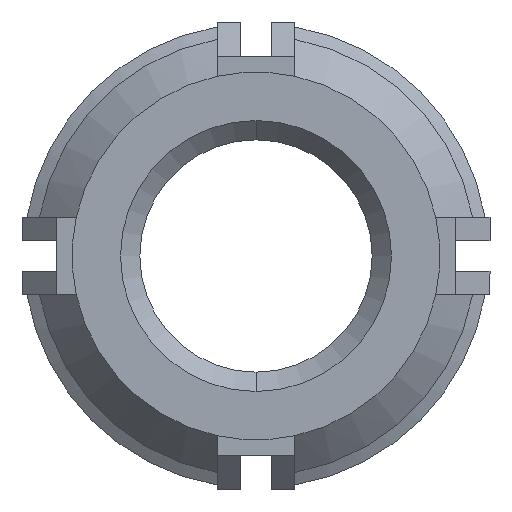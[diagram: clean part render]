
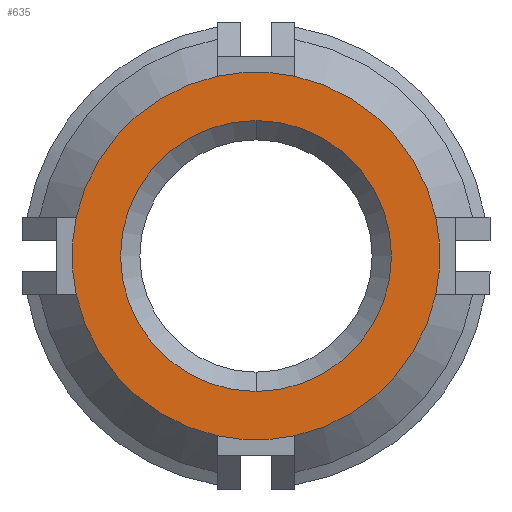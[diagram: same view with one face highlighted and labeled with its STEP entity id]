
A CAD part, front view. The second image highlights one B-rep face of the part: STEP entity #635.
In plain terms, the highlighted planar face has unit normal (0, -1, 0).
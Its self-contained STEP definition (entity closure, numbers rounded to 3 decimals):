
#87 = VERTEX_POINT ( 'NONE', #1392 ) ;
#97 = ORIENTED_EDGE ( 'NONE', *, *, #1505, .T. ) ;
#108 = ORIENTED_EDGE ( 'NONE', *, *, #387, .T. ) ;
#126 = CIRCLE ( 'NONE', #2827, 4.75 ) ;
#210 = CIRCLE ( 'NONE', #3078, 4.75 ) ;
#219 = DIRECTION ( 'NONE',  ( 0., -1., 0. ) ) ;
#252 = VERTEX_POINT ( 'NONE', #796 ) ;
#262 = DIRECTION ( 'NONE',  ( 0., 0., 1. ) ) ;
#267 = FACE_BOUND ( 'NONE', #1889, .T. ) ;
#358 = CARTESIAN_POINT ( 'NONE',  ( 0., -12., 0. ) ) ;
#387 = EDGE_CURVE ( 'NONE', #252, #887, #4922, .T. ) ;
#413 = CARTESIAN_POINT ( 'NONE',  ( 0., -12., 0. ) ) ;
#414 = EDGE_LOOP ( 'NONE', ( #97, #1645, #490, #3100, #2006, #4055, #1753, #108 ) ) ;
#485 = DIRECTION ( 'NONE',  ( 0., 1., 0. ) ) ;
#490 = ORIENTED_EDGE ( 'NONE', *, *, #1425, .T. ) ;
#635 = ADVANCED_FACE ( 'NONE', ( #267, #4973 ), #3400, .F. ) ;
#762 = VERTEX_POINT ( 'NONE', #2908 ) ;
#796 = CARTESIAN_POINT ( 'NONE',  ( -1., -12., 4.644 ) ) ;
#887 = VERTEX_POINT ( 'NONE', #1062 ) ;
#923 = DIRECTION ( 'NONE',  ( 0., 0., 1. ) ) ;
#1062 = CARTESIAN_POINT ( 'NONE',  ( -4.644, -12., 1. ) ) ;
#1087 = VERTEX_POINT ( 'NONE', #4850 ) ;
#1163 = DIRECTION ( 'NONE',  ( 0., -1., 0. ) ) ;
#1184 = VERTEX_POINT ( 'NONE', #2918 ) ;
#1260 = DIRECTION ( 'NONE',  ( 0., -1., 0. ) ) ;
#1270 = CARTESIAN_POINT ( 'NONE',  ( 0., -12., 0. ) ) ;
#1288 = CARTESIAN_POINT ( 'NONE',  ( 0., -12., 0. ) ) ;
#1293 = EDGE_CURVE ( 'NONE', #2374, #1184, #126, .T. ) ;
#1298 = DIRECTION ( 'NONE',  ( 0., 0., 1. ) ) ;
#1309 = CARTESIAN_POINT ( 'NONE',  ( 1., -12., 4.644 ) ) ;
#1392 = CARTESIAN_POINT ( 'NONE',  ( 1., -12., -4.644 ) ) ;
#1425 = EDGE_CURVE ( 'NONE', #1897, #87, #1936, .T. ) ;
#1505 = EDGE_CURVE ( 'NONE', #887, #2656, #2021, .T. ) ;
#1542 = DIRECTION ( 'NONE',  ( 0., 0., 1. ) ) ;
#1544 = DIRECTION ( 'NONE',  ( 0., 0., -1. ) ) ;
#1566 = CARTESIAN_POINT ( 'NONE',  ( 0., -12., 0. ) ) ;
#1625 = AXIS2_PLACEMENT_3D ( 'NONE', #1270, #4384, #1298 ) ;
#1645 = ORIENTED_EDGE ( 'NONE', *, *, #2525, .T. ) ;
#1657 = CARTESIAN_POINT ( 'NONE',  ( -4.644, -12., -1. ) ) ;
#1697 = CARTESIAN_POINT ( 'NONE',  ( -1., -12., -4.644 ) ) ;
#1753 = ORIENTED_EDGE ( 'NONE', *, *, #3385, .T. ) ;
#1889 = EDGE_LOOP ( 'NONE', ( #3229, #3990 ) ) ;
#1897 = VERTEX_POINT ( 'NONE', #1697 ) ;
#1936 = CIRCLE ( 'NONE', #3318, 4.75 ) ;
#1987 = DIRECTION ( 'NONE',  ( 0., -1., 0. ) ) ;
#2006 = ORIENTED_EDGE ( 'NONE', *, *, #1293, .T. ) ;
#2021 = CIRCLE ( 'NONE', #2341, 4.75 ) ;
#2119 = AXIS2_PLACEMENT_3D ( 'NONE', #2627, #219, #262 ) ;
#2263 = DIRECTION ( 'NONE',  ( 0., 0., 1. ) ) ;
#2295 = DIRECTION ( 'NONE',  ( 0., 0., 1. ) ) ;
#2341 = AXIS2_PLACEMENT_3D ( 'NONE', #1288, #3669, #923 ) ;
#2374 = VERTEX_POINT ( 'NONE', #2497 ) ;
#2497 = CARTESIAN_POINT ( 'NONE',  ( 4.644, -12., -1. ) ) ;
#2525 = EDGE_CURVE ( 'NONE', #2656, #1897, #210, .T. ) ;
#2558 = EDGE_CURVE ( 'NONE', #1184, #2950, #4057, .T. ) ;
#2627 = CARTESIAN_POINT ( 'NONE',  ( 0., -12., 0. ) ) ;
#2656 = VERTEX_POINT ( 'NONE', #1657 ) ;
#2668 = DIRECTION ( 'NONE',  ( 0., -1., 0. ) ) ;
#2733 = AXIS2_PLACEMENT_3D ( 'NONE', #4427, #4045, #4747 ) ;
#2827 = AXIS2_PLACEMENT_3D ( 'NONE', #3435, #4592, #1544 ) ;
#2908 = CARTESIAN_POINT ( 'NONE',  ( 0., -12., -3.5 ) ) ;
#2918 = CARTESIAN_POINT ( 'NONE',  ( 4.644, -12., 1. ) ) ;
#2920 = CIRCLE ( 'NONE', #4309, 4.75 ) ;
#2950 = VERTEX_POINT ( 'NONE', #1309 ) ;
#3013 = DIRECTION ( 'NONE',  ( 0., 0., 1. ) ) ;
#3065 = DIRECTION ( 'NONE',  ( 0., 1., 0. ) ) ;
#3078 = AXIS2_PLACEMENT_3D ( 'NONE', #413, #1987, #2295 ) ;
#3100 = ORIENTED_EDGE ( 'NONE', *, *, #5009, .T. ) ;
#3141 = EDGE_CURVE ( 'NONE', #1087, #762, #4870, .T. ) ;
#3150 = CARTESIAN_POINT ( 'NONE',  ( 0., -12., 0. ) ) ;
#3229 = ORIENTED_EDGE ( 'NONE', *, *, #4803, .T. ) ;
#3260 = CIRCLE ( 'NONE', #2119, 4.75 ) ;
#3318 = AXIS2_PLACEMENT_3D ( 'NONE', #3150, #1260, #5055 ) ;
#3385 = EDGE_CURVE ( 'NONE', #2950, #252, #2920, .T. ) ;
#3400 = PLANE ( 'NONE',  #4602 ) ;
#3435 = CARTESIAN_POINT ( 'NONE',  ( 0., -12., 0. ) ) ;
#3495 = AXIS2_PLACEMENT_3D ( 'NONE', #1566, #485, #1542 ) ;
#3655 = AXIS2_PLACEMENT_3D ( 'NONE', #358, #1163, #2263 ) ;
#3669 = DIRECTION ( 'NONE',  ( 0., -1., 0. ) ) ;
#3822 = CIRCLE ( 'NONE', #3495, 3.5 ) ;
#3990 = ORIENTED_EDGE ( 'NONE', *, *, #3141, .T. ) ;
#4045 = DIRECTION ( 'NONE',  ( 0., -1., 0. ) ) ;
#4055 = ORIENTED_EDGE ( 'NONE', *, *, #2558, .T. ) ;
#4057 = CIRCLE ( 'NONE', #3655, 4.75 ) ;
#4309 = AXIS2_PLACEMENT_3D ( 'NONE', #4569, #2668, #4980 ) ;
#4384 = DIRECTION ( 'NONE',  ( 0., 1., 0. ) ) ;
#4427 = CARTESIAN_POINT ( 'NONE',  ( 0., -12., 0. ) ) ;
#4569 = CARTESIAN_POINT ( 'NONE',  ( 0., -12., 0. ) ) ;
#4588 = CARTESIAN_POINT ( 'NONE',  ( 0., -12., 0. ) ) ;
#4592 = DIRECTION ( 'NONE',  ( 0., -1., 0. ) ) ;
#4602 = AXIS2_PLACEMENT_3D ( 'NONE', #4588, #3065, #3013 ) ;
#4747 = DIRECTION ( 'NONE',  ( 0., 0., 1. ) ) ;
#4803 = EDGE_CURVE ( 'NONE', #762, #1087, #3822, .T. ) ;
#4850 = CARTESIAN_POINT ( 'NONE',  ( 0., -12., 3.5 ) ) ;
#4870 = CIRCLE ( 'NONE', #1625, 3.5 ) ;
#4922 = CIRCLE ( 'NONE', #2733, 4.75 ) ;
#4973 = FACE_OUTER_BOUND ( 'NONE', #414, .T. ) ;
#4980 = DIRECTION ( 'NONE',  ( 1., 0., 0. ) ) ;
#5009 = EDGE_CURVE ( 'NONE', #87, #2374, #3260, .T. ) ;
#5055 = DIRECTION ( 'NONE',  ( -1., 0., 0. ) ) ;
